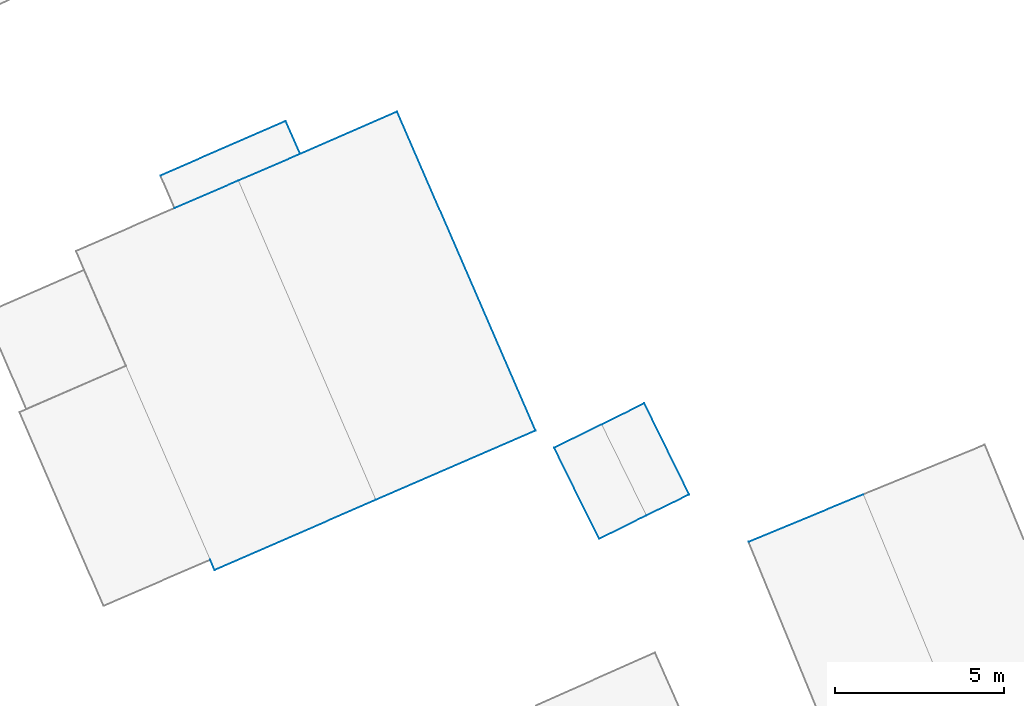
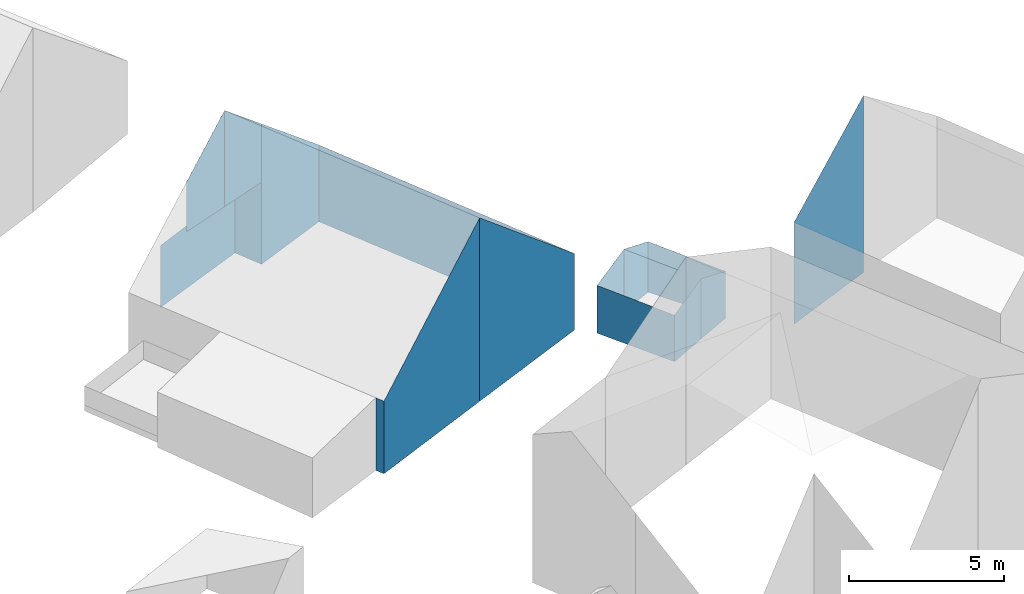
# Not in any storey, part 39 of 59: 16 walls.
"""IFC4 building model written with IfcOpenShell, lengths in metres."""

from ifc_helpers import new_model, entity, si_unit, converted_unit, origin, place, context, subcontext, project, spatial, face_set, surface_model, element, save


model = new_model("IFC4")

# Units and contexts
model_context = context("Model", 3, precision=1e-05, world=origin())
body_context = subcontext(model_context, "Body", "Model", "MODEL_VIEW")
ifc_project = project(units=[converted_unit("PLANEANGLEUNIT", "DEGREE", entity("IfcRatioMeasure", 0.0174532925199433), si_unit("PLANEANGLEUNIT", "RADIAN"), dimensions=[0, 0, 0, 0, 0, 0, 0]), si_unit("AREAUNIT", "SQUARE_METRE"), si_unit("LENGTHUNIT", "METRE")], contexts=[model_context])

# Site, building
site_placement = place(None, origin())
site = spatial("IfcSite", under=ifc_project, at=site_placement, Name="_site")
building_1_placement = place(site_placement, origin())
building_1 = spatial("IfcBuilding", under=site, at=building_1_placement, Name="_building")

# Wall
wall_1_placement = place(building_1_placement, origin())
element("IfcWall", 1, at=wall_1_placement, inside=building_1, Name="Wall", PredefinedType="NOTDEFINED", context=body_context, shape_type="SurfaceModel", body=[
    surface_model("IfcFaceBasedSurfaceModel", [(255.73, 205.07, 220.02), (259.12, 206.471, 222.97), (259.12, 206.471, 216.001), (255.73, 205.07, 216.001)], [face_set([[[0, 1, 2, 3]]])]),
])

# Building
building_2_placement = place(site_placement, origin())
building_2 = spatial("IfcBuilding", under=site, at=building_2_placement, Name="_building")

# Walls
wall_2_placement = place(building_2_placement, origin())
element("IfcWall", 2, at=wall_2_placement, inside=building_2, Name="Wall", PredefinedType="NOTDEFINED", context=body_context, shape_type="SurfaceModel", body=[
    surface_model("IfcFaceBasedSurfaceModel", [(238.78, 214.93, 221.57), (240.66, 215.74, 223.23), (240.66, 215.74, 219.438), (238.78, 214.93, 219.6)], [face_set([[[0, 1, 2, 3]]])]),
])
wall_3_placement = place(building_2_placement, origin())
element("IfcWall", 3, at=wall_3_placement, inside=building_2, Name="Wall", PredefinedType="NOTDEFINED", context=body_context, shape_type="SurfaceModel", body=[
    surface_model("IfcFaceBasedSurfaceModel", [(240.66, 215.74, 223.23), (242.49, 216.529, 221.58), (242.49, 216.529, 219.28), (240.66, 215.74, 219.438)], [face_set([[[0, 1, 2, 3]]])]),
])
wall_4_placement = place(building_2_placement, origin())
element("IfcWall", 4, at=wall_4_placement, inside=building_2, Name="Wall", PredefinedType="NOTDEFINED", context=body_context, shape_type="SurfaceModel", body=[
    surface_model("IfcFaceBasedSurfaceModel", [(244.72, 206.311, 223.29), (239.96, 204.24, 218.99), (239.96, 204.24, 216.127), (244.72, 206.311, 216.061)], [face_set([[[0, 1, 2, 3]]])]),
])
wall_5_placement = place(building_2_placement, origin())
element("IfcWall", 5, at=wall_5_placement, inside=building_2, Name="Wall", PredefinedType="NOTDEFINED", context=body_context, shape_type="SurfaceModel", body=[
    surface_model("IfcFaceBasedSurfaceModel", [(249.44, 208.359, 218.99), (244.72, 206.311, 223.29), (244.72, 206.311, 216.061), (249.44, 208.359, 215.98)], [face_set([[[0, 1, 2, 3]]])]),
])
wall_6_placement = place(building_2_placement, origin())
element("IfcWall", 6, at=wall_6_placement, inside=building_2, Name="Wall", PredefinedType="NOTDEFINED", context=body_context, shape_type="SurfaceModel", body=[
    surface_model("IfcFaceBasedSurfaceModel", [(242.49, 216.529, 221.58), (245.35, 217.779, 218.99), (245.35, 217.779, 215.966), (242.49, 216.529, 216.042)], [face_set([[[0, 1, 2, 3]]])]),
])
wall_7_placement = place(building_2_placement, origin())
element("IfcWall", 7, at=wall_7_placement, inside=building_2, Name="Wall", PredefinedType="NOTDEFINED", context=body_context, shape_type="SurfaceModel", body=[
    surface_model("IfcFaceBasedSurfaceModel", [(242.06, 217.5, 218.59), (242.49, 216.529, 219.28), (242.49, 216.529, 216.042), (242.06, 217.5, 216.055)], [face_set([[[0, 1, 2, 3]]])]),
])
wall_8_placement = place(building_2_placement, origin())
element("IfcWall", 8, at=wall_8_placement, inside=building_2, Name="Wall", PredefinedType="NOTDEFINED", context=body_context, shape_type="SurfaceModel", body=[
    surface_model("IfcFaceBasedSurfaceModel", [(239.96, 204.24, 218.99), (239.83, 204.539, 218.99), (239.83, 204.539, 216.128), (239.96, 204.24, 216.127)], [face_set([[[0, 1, 2, 3]]])]),
])
wall_9_placement = place(building_2_placement, origin())
element("IfcWall", 9, at=wall_9_placement, inside=building_2, Name="Wall", PredefinedType="NOTDEFINED", context=body_context, shape_type="SurfaceModel", body=[
    surface_model("IfcFaceBasedSurfaceModel", [(245.35, 217.779, 218.99), (249.44, 208.359, 218.99), (249.44, 208.359, 215.98), (245.35, 217.779, 215.966)], [face_set([[[0, 1, 2, 3]]])]),
])
wall_10_placement = place(building_2_placement, origin())
element("IfcWall", 10, at=wall_10_placement, inside=building_2, Name="Wall", PredefinedType="NOTDEFINED", context=body_context, shape_type="SurfaceModel", body=[
    surface_model("IfcFaceBasedSurfaceModel", [(238.36, 215.891, 218.62), (242.06, 217.5, 218.59), (242.06, 217.5, 216.055), (238.36, 215.891, 216.178)], [face_set([[[0, 1, 2, 3]]])]),
])

# Building
building_3_placement = place(site_placement, origin())
building_3 = spatial("IfcBuilding", under=site, at=building_3_placement, Name="_building")

# Walls
wall_11_placement = place(building_3_placement, origin())
element("IfcWall", 11, at=wall_11_placement, inside=building_3, Name="Wall", PredefinedType="NOTDEFINED", context=body_context, shape_type="SurfaceModel", body=[
    surface_model("IfcFaceBasedSurfaceModel", [(252.71, 205.85, 218.37), (251.32, 205.16, 217.85), (251.32, 205.16, 216.006), (252.71, 205.85, 216.0)], [face_set([[[0, 1, 2, 3]]])]),
])
wall_12_placement = place(building_3_placement, origin())
element("IfcWall", 12, at=wall_12_placement, inside=building_3, Name="Wall", PredefinedType="NOTDEFINED", context=body_context, shape_type="SurfaceModel", body=[
    surface_model("IfcFaceBasedSurfaceModel", [(253.98, 206.471, 217.85), (252.71, 205.85, 218.37), (252.71, 205.85, 216.0), (253.98, 206.471, 216.0)], [face_set([[[0, 1, 2, 3]]])]),
])
wall_13_placement = place(building_3_placement, origin())
element("IfcWall", 13, at=wall_13_placement, inside=building_3, Name="Wall", PredefinedType="NOTDEFINED", context=body_context, shape_type="SurfaceModel", body=[
    surface_model("IfcFaceBasedSurfaceModel", [(249.99, 207.85, 217.85), (251.39, 208.539, 218.37), (251.39, 208.539, 215.91), (249.99, 207.85, 215.969)], [face_set([[[0, 1, 2, 3]]])]),
])
wall_14_placement = place(building_3_placement, origin())
element("IfcWall", 14, at=wall_14_placement, inside=building_3, Name="Wall", PredefinedType="NOTDEFINED", context=body_context, shape_type="SurfaceModel", body=[
    surface_model("IfcFaceBasedSurfaceModel", [(251.39, 208.539, 218.37), (252.65, 209.16, 217.85), (252.65, 209.16, 215.857), (251.39, 208.539, 215.91)], [face_set([[[0, 1, 2, 3]]])]),
])
wall_15_placement = place(building_3_placement, origin())
element("IfcWall", 15, at=wall_15_placement, inside=building_3, Name="Wall", PredefinedType="NOTDEFINED", context=body_context, shape_type="SurfaceModel", body=[
    surface_model("IfcFaceBasedSurfaceModel", [(251.32, 205.16, 217.85), (249.99, 207.85, 217.85), (249.99, 207.85, 215.969), (251.32, 205.16, 216.006)], [face_set([[[0, 1, 2, 3]]])]),
])
wall_16_placement = place(building_3_placement, origin())
element("IfcWall", 16, at=wall_16_placement, inside=building_3, Name="Wall", PredefinedType="NOTDEFINED", context=body_context, shape_type="SurfaceModel", body=[
    surface_model("IfcFaceBasedSurfaceModel", [(252.65, 209.16, 217.85), (253.98, 206.471, 217.85), (253.98, 206.471, 216.0), (252.65, 209.16, 215.857)], [face_set([[[0, 1, 2, 3]]])]),
])

save(model, "model.ifc")
